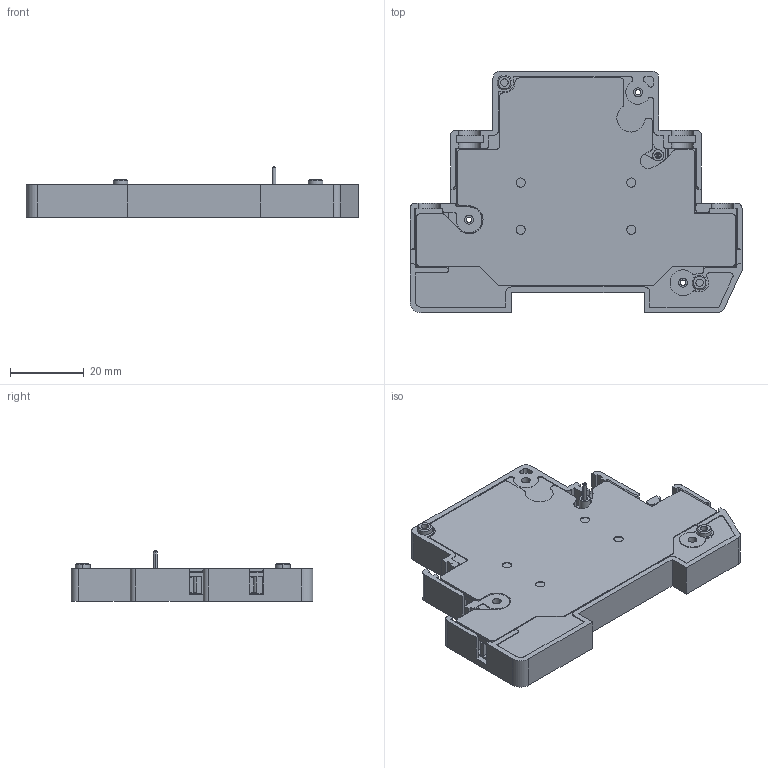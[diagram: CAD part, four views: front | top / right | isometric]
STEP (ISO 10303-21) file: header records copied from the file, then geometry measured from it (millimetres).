
FILE_DESCRIPTION(('Creo Elements/Direct Modeling STEP Export'),'2;1');
FILE_NAME('PLHT-HK.stp','2018-10-11T14:37:25',(''),(''),'Creo Elements/Direct Modeling STEP processor for AP214 (Solid Model)','Creo Elements/Direct Modeling 20.0C 26-Jan-2018 (C) Parametric Technology GmbH','');
FILE_SCHEMA(('AUTOMOTIVE_DESIGN { 1 0 10303 214 1 1 1 1 }'));
Length unit declared in the file: millimetre
Products named in the file (2): ls8417-LH-Hilfskontaktblock_3D-Dummy
Assembly tree (1 placements, depth 2):
  ls8417-LH-Hilfskontaktblock_3D-Dummy
    ls8417-LH-Hilfskontaktblock_3D-Dummy
Bounding box: 90 x 65.5 x 13.66 mm (x, y, z)
Volume: 36250.6 mm3; surface area: 18008 mm2
Topology: 1 solids, 1 shells, 751 faces, 2113 edges, 1380 vertices
Faces by surface type: plane 431, cylinder 250, cone 60, sphere 8, bspline 2
Entity records: 28130 total; most frequent: CARTESIAN_POINT 8813, ORIENTED_EDGE 4210, DIRECTION 3732, EDGE_CURVE 2105, VERTEX_POINT 1380, AXIS2_PLACEMENT_3D 1251, VECTOR 1230, LINE 1230
